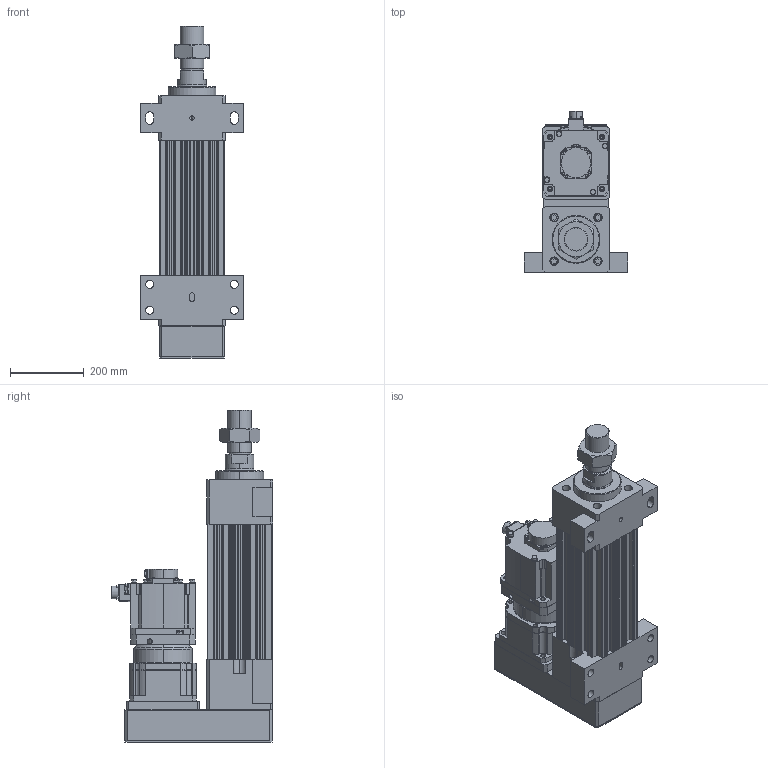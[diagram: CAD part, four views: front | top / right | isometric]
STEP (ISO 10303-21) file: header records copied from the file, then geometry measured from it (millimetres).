
FILE_DESCRIPTION (( 'STEP AP203' ), '1' );
FILE_NAME ('HES180HS-P050-W050G00-M-FFB.STEP', '2023-02-01T06:20:02', ( 'tms' ), ( '' ), 'SwSTEP 2.0', 'SolidWorks 2013', '' );
FILE_SCHEMA (( 'CONFIG_CONTROL_DESIGN' ));
Length unit declared in the file: millimetre
Products named in the file (9): HES180-P050-G180-FFB; AB180-003[HG-SR702B]; AB1801; HES180HS-P050-W050G00-M-FFB; HG-SR502; P1301600001; P0403600401; HES180 ROD M ST050; M64X2.0P
Assembly tree (8 placements, depth 3):
  HES180HS-P050-W050G00-M-FFB
    HES180-P050-G180-FFB
    HES180 ROD M ST050
    M64X2.0P
    AB180-003[HG-SR702B]
      AB1801
      P1301600001
      P0403600401
    HG-SR502
Bounding box: 280 x 438.85 x 902 mm (x, y, z)
Volume: 23753118.1 mm3; surface area: 1906739.3 mm2
Topology: 4 solids, 19 shells, 1446 faces, 3761 edges, 2443 vertices
Faces by surface type: cylinder 668, plane 567, cone 144, bspline 63, torus 4
Entity records: 53114 total; most frequent: CARTESIAN_POINT 16078, DIRECTION 7777, ORIENTED_EDGE 7426, EDGE_CURVE 3737, AXIS2_PLACEMENT_3D 2922, VERTEX_POINT 2443, LINE 1933, VECTOR 1933
